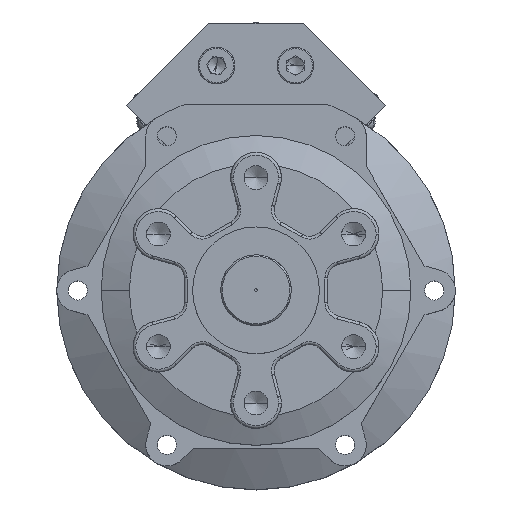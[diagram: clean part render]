
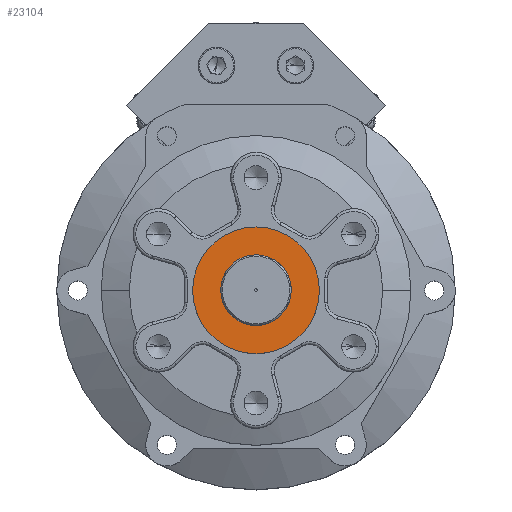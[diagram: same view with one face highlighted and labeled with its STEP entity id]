
A CAD part, top view. The second image highlights one B-rep face of the part: STEP entity #23104.
In plain terms, the highlighted planar face has unit normal (0, 0, 1).
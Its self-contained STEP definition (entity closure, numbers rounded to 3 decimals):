
#96 = VERTEX_POINT ( 'NONE', #8080 ) ;
#1030 = DIRECTION ( 'NONE',  ( 0., 0., 1. ) ) ;
#1698 = CARTESIAN_POINT ( 'NONE',  ( 12.5, 0., 65. ) ) ;
#1879 = ORIENTED_EDGE ( 'NONE', *, *, #19096, .T. ) ;
#2094 = CARTESIAN_POINT ( 'NONE',  ( 0., 0., 65. ) ) ;
#3434 = DIRECTION ( 'NONE',  ( 0., 0., 1. ) ) ;
#7650 = EDGE_CURVE ( 'NONE', #96, #17679, #24422, .T. ) ;
#8080 = CARTESIAN_POINT ( 'NONE',  ( -12.5, 0., 65. ) ) ;
#8101 = VERTEX_POINT ( 'NONE', #23422 ) ;
#8715 = CARTESIAN_POINT ( 'NONE',  ( 0., 0., 65. ) ) ;
#9034 = VERTEX_POINT ( 'NONE', #13432 ) ;
#9594 = AXIS2_PLACEMENT_3D ( 'NONE', #23701, #1030, #24108 ) ;
#9947 = CARTESIAN_POINT ( 'NONE',  ( 0., 0., 65. ) ) ;
#10598 = EDGE_LOOP ( 'NONE', ( #1879, #21424 ) ) ;
#11038 = AXIS2_PLACEMENT_3D ( 'NONE', #9947, #24070, #14534 ) ;
#11054 = DIRECTION ( 'NONE',  ( 0., 0., 1. ) ) ;
#11659 = CIRCLE ( 'NONE', #9594, 22.5 ) ;
#12373 = CARTESIAN_POINT ( 'NONE',  ( 0., 0., 65. ) ) ;
#13432 = CARTESIAN_POINT ( 'NONE',  ( -22.5, 0., 65. ) ) ;
#13654 = ORIENTED_EDGE ( 'NONE', *, *, #7650, .F. ) ;
#14534 = DIRECTION ( 'NONE',  ( 1., 0., 0. ) ) ;
#17209 = CIRCLE ( 'NONE', #23730, 12.5 ) ;
#17679 = VERTEX_POINT ( 'NONE', #1698 ) ;
#17930 = DIRECTION ( 'NONE',  ( 1., 0., 0. ) ) ;
#19096 = EDGE_CURVE ( 'NONE', #9034, #8101, #11659, .T. ) ;
#19963 = ORIENTED_EDGE ( 'NONE', *, *, #24355, .F. ) ;
#20304 = CIRCLE ( 'NONE', #24957, 22.5 ) ;
#20395 = EDGE_LOOP ( 'NONE', ( #19963, #13654 ) ) ;
#21424 = ORIENTED_EDGE ( 'NONE', *, *, #29076, .T. ) ;
#23104 = ADVANCED_FACE ( 'NONE', ( #24089, #25895 ), #28502, .T. ) ;
#23422 = CARTESIAN_POINT ( 'NONE',  ( 22.5, 0., 65. ) ) ;
#23701 = CARTESIAN_POINT ( 'NONE',  ( 0., 0., 65. ) ) ;
#23730 = AXIS2_PLACEMENT_3D ( 'NONE', #2094, #11054, #27305 ) ;
#24070 = DIRECTION ( 'NONE',  ( 0., 0., 1. ) ) ;
#24089 = FACE_BOUND ( 'NONE', #20395, .T. ) ;
#24108 = DIRECTION ( 'NONE',  ( 1., 0., 0. ) ) ;
#24355 = EDGE_CURVE ( 'NONE', #17679, #96, #17209, .T. ) ;
#24422 = CIRCLE ( 'NONE', #25429, 12.5 ) ;
#24771 = DIRECTION ( 'NONE',  ( 0., 0., 1. ) ) ;
#24957 = AXIS2_PLACEMENT_3D ( 'NONE', #12373, #3434, #28324 ) ;
#25429 = AXIS2_PLACEMENT_3D ( 'NONE', #8715, #24771, #17930 ) ;
#25895 = FACE_OUTER_BOUND ( 'NONE', #10598, .T. ) ;
#27305 = DIRECTION ( 'NONE',  ( 1., 0., 0. ) ) ;
#28324 = DIRECTION ( 'NONE',  ( 1., 0., 0. ) ) ;
#28502 = PLANE ( 'NONE',  #11038 ) ;
#29076 = EDGE_CURVE ( 'NONE', #8101, #9034, #20304, .T. ) ;
